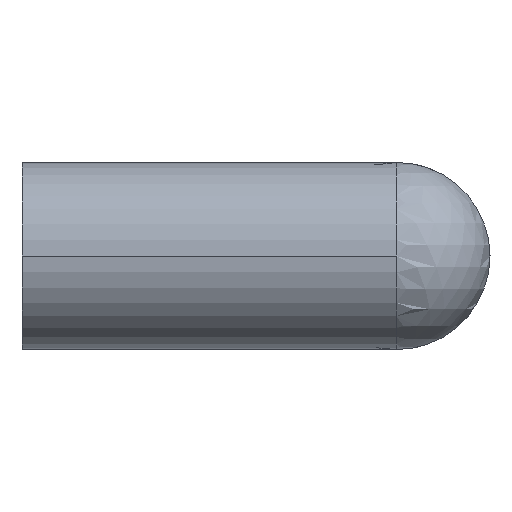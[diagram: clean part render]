
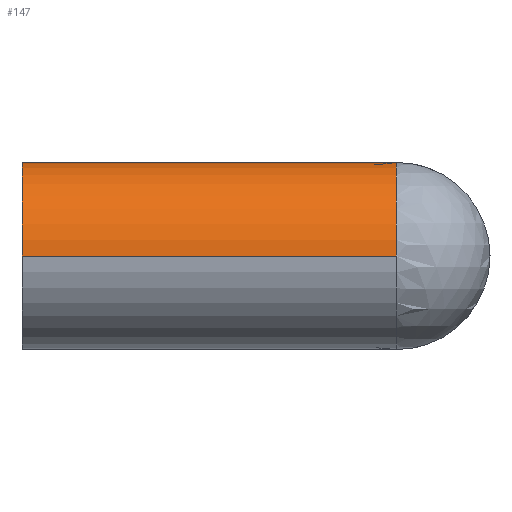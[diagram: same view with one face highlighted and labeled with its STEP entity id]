
A CAD part, left-side view. The second image highlights one B-rep face of the part: STEP entity #147.
In plain terms, the highlighted cylindrical face has radius 6 mm (diameter 12 mm), a partial arc.
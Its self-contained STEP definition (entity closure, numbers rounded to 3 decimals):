
#97 = VERTEX_POINT( '', #252 );
#105 = VERTEX_POINT( '', #263 );
#113 = VERTEX_POINT( '', #272 );
#141 = EDGE_CURVE( '', #113, #105, #305, .T. );
#147 = ADVANCED_FACE( '', ( #312 ), #313, .T. );
#151 = EDGE_CURVE( '', #113, #219, #317, .T. );
#175 = EDGE_CURVE( '', #219, #97, #344, .T. );
#177 = EDGE_CURVE( '', #191, #97, #346, .T. );
#191 = VERTEX_POINT( '', #362 );
#219 = VERTEX_POINT( '', #391 );
#225 = EDGE_CURVE( '', #105, #191, #397, .T. );
#252 = CARTESIAN_POINT( '', ( 6., -18., 0. ) );
#263 = CARTESIAN_POINT( '', ( -6., 0., 0. ) );
#272 = CARTESIAN_POINT( '', ( -6., -24., 0. ) );
#305 = LINE( '', #477, #478 );
#312 = FACE_OUTER_BOUND( '', #487, .T. );
#313 = CYLINDRICAL_SURFACE( '', #488, 6. );
#317 = CIRCLE( '', #493, 6. );
#344 = ELLIPSE( '', #525, 8.485, 6. );
#346 = LINE( '', #528, #529 );
#362 = CARTESIAN_POINT( '', ( 6., 0., 0. ) );
#391 = CARTESIAN_POINT( '', ( 0., -24., 6. ) );
#397 = CIRCLE( '', #599, 6. );
#477 = CARTESIAN_POINT( '', ( -6., 0., 0. ) );
#478 = VECTOR( '', #693, 1. );
#487 = EDGE_LOOP( '', ( #705, #706, #707, #708, #709 ) );
#488 = AXIS2_PLACEMENT_3D( '', #710, #711, #712 );
#493 = AXIS2_PLACEMENT_3D( '', #713, #714, #715 );
#525 = AXIS2_PLACEMENT_3D( '', #756, #757, #758 );
#528 = CARTESIAN_POINT( '', ( 6., 0., 0. ) );
#529 = VECTOR( '', #759, 1. );
#599 = AXIS2_PLACEMENT_3D( '', #805, #806, #807 );
#693 = DIRECTION( '', ( 0., 1., 0. ) );
#705 = ORIENTED_EDGE( '', *, *, #177, .F. );
#706 = ORIENTED_EDGE( '', *, *, #225, .F. );
#707 = ORIENTED_EDGE( '', *, *, #141, .F. );
#708 = ORIENTED_EDGE( '', *, *, #151, .T. );
#709 = ORIENTED_EDGE( '', *, *, #175, .T. );
#710 = CARTESIAN_POINT( '', ( 0., 0., 0. ) );
#711 = DIRECTION( '', ( 0., 1., 0. ) );
#712 = DIRECTION( '', ( 1., 0., 0. ) );
#713 = CARTESIAN_POINT( '', ( 0., -24., 0. ) );
#714 = DIRECTION( '', ( 0., 1., 0. ) );
#715 = DIRECTION( '', ( 1., 0., 0. ) );
#756 = CARTESIAN_POINT( '', ( 0., -24., 0. ) );
#757 = DIRECTION( '', ( -0.707, 0.707, 0. ) );
#758 = DIRECTION( '', ( 0.707, 0.707, 0. ) );
#759 = DIRECTION( '', ( 0., -1., 0. ) );
#805 = CARTESIAN_POINT( '', ( 0., 0., 0. ) );
#806 = DIRECTION( '', ( 0., 1., 0. ) );
#807 = DIRECTION( '', ( 1., 0., 0. ) );
